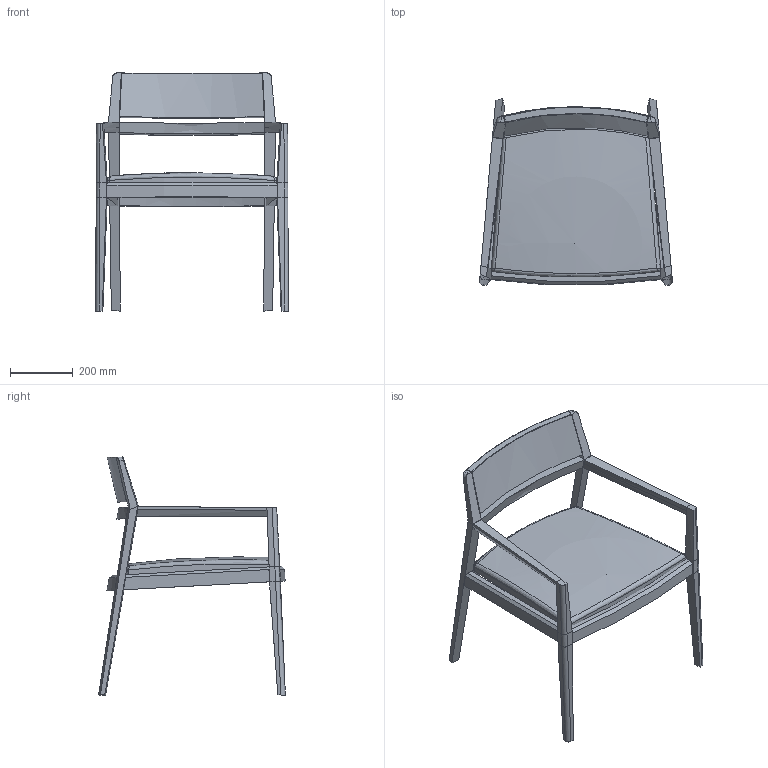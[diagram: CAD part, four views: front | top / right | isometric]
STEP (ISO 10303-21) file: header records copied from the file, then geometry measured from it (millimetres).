
FILE_DESCRIPTION(/* description */ ('','CAx-IF Rec.Pracs.---Representation and Presentation of Product Manufacturing Information (PMI)---4.0---2014-10-13'),/* implementation_level */ '2;1');
FILE_NAME(/* name */ 'Pentero_230_SB.step',/* time_stamp */ '2025-02-18T08:12:52-08:00',/* author */ (''),/* organization */ (''),/* preprocessor_version */ 'ST-DEVELOPER v20',/* originating_system */ 'Autodesk Translation Framework v13.20.0.188',/* authorisation */ '');
FILE_SCHEMA (('AP242_MANAGED_MODEL_BASED_3D_ENGINEERING_MIM_LF { 1 0 10303 442 1 1 4 }'));
Length unit declared in the file: inch
Products named in the file (1): 1
Bounding box: 614.51 x 595.49 x 759.04 mm (x, y, z)
Volume: 15719852.6 mm3; surface area: 1454174.8 mm2
Topology: 12 solids, 13 shells, 207 faces, 522 edges, 335 vertices
Faces by surface type: bspline 92, plane 62, cylinder 48, sphere 5
Full cylindrical faces by diameter (mm): 6 x2, 13.155 x2
Entity records: 8719 total; most frequent: CARTESIAN_POINT 4502, ORIENTED_EDGE 1019, DIRECTION 587, EDGE_CURVE 512, VERTEX_POINT 335, B_SPLINE_CURVE_WITH_KNOTS 218, EDGE_LOOP 213, FACE_OUTER_BOUND 207
